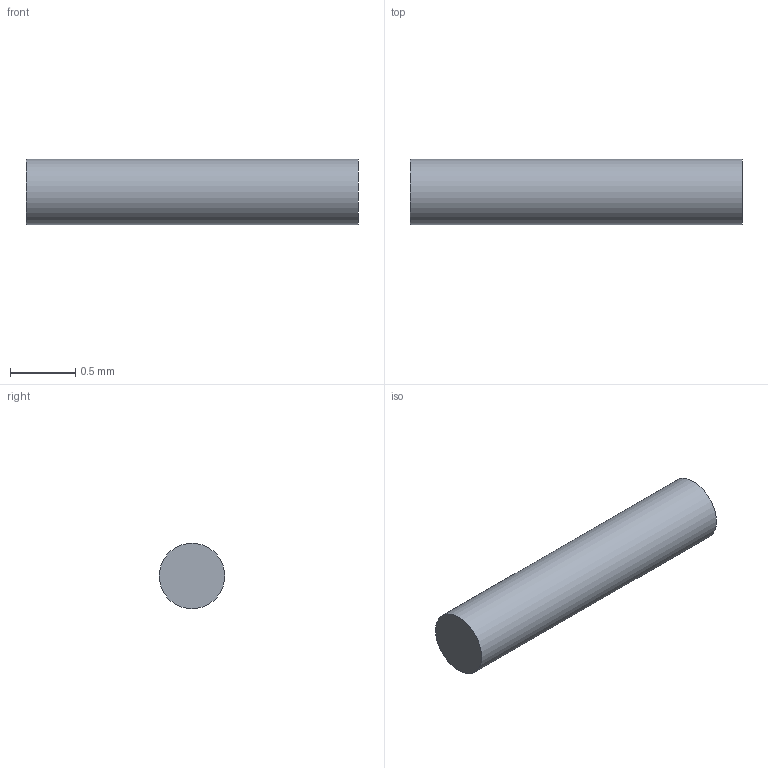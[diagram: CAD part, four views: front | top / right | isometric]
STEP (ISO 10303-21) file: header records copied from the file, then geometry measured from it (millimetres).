
FILE_DESCRIPTION(('FreeCAD Model'),'2;1');
FILE_NAME('Open CASCADE Shape Model','2026-04-07T19:07:43',('FreeCAD'),( 'FreeCAD'),'Open CASCADE STEP processor 7.8','FreeCAD','Unknown');
FILE_SCHEMA(('AUTOMOTIVE_DESIGN { 1 0 10303 214 1 1 1 1 }'));
Length unit declared in the file: millimetre
Products named in the file (1): Open CASCADE STEP translator 7.8 16
Bounding box: 2.54 x 0.5 x 0.5 mm (x, y, z)
Volume: 0.5 mm3; surface area: 4.4 mm2
Topology: 1 solids, 1 shells, 3 faces, 3 edges, 2 vertices
Faces by surface type: plane 2, cylinder 1
Full cylindrical faces by diameter (mm): 0.5 x1
Entity records: 69 total; most frequent: DIRECTION 13, CARTESIAN_POINT 9, AXIS2_PLACEMENT_3D 6, ORIENTED_EDGE 6, ADVANCED_FACE 3, FACE_BOUND 3, EDGE_LOOP 3, EDGE_CURVE 3
